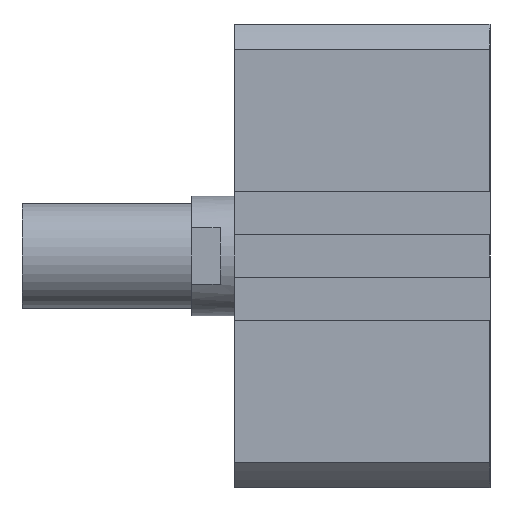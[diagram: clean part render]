
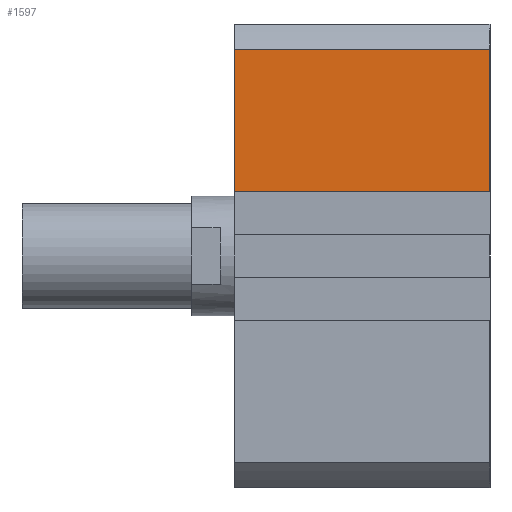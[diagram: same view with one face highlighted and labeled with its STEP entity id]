
A CAD part, left-side view. The second image highlights one B-rep face of the part: STEP entity #1597.
In plain terms, the highlighted planar face has unit normal (-1, 0, 0).
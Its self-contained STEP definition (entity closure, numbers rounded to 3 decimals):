
#133 = LINE ( 'NONE', #2850, #517 ) ;
#222 = CARTESIAN_POINT ( 'NONE',  ( -48.5, -53.5, 43.275 ) ) ;
#238 = CARTESIAN_POINT ( 'NONE',  ( -48.5, -53.5, 0. ) ) ;
#342 = LINE ( 'NONE', #872, #2144 ) ;
#370 = AXIS2_PLACEMENT_3D ( 'NONE', #1582, #1362, #884 ) ;
#409 = VECTOR ( 'NONE', #1386, 1000. ) ;
#512 = EDGE_CURVE ( 'NONE', #904, #2169, #3055, .T. ) ;
#517 = VECTOR ( 'NONE', #2356, 1000. ) ;
#536 = EDGE_LOOP ( 'NONE', ( #554, #564, #2292, #2583 ) ) ;
#554 = ORIENTED_EDGE ( 'NONE', *, *, #2326, .F. ) ;
#559 = EDGE_CURVE ( 'NONE', #904, #1355, #133, .T. ) ;
#564 = ORIENTED_EDGE ( 'NONE', *, *, #559, .F. ) ;
#631 = DIRECTION ( 'NONE',  ( 0., 0., 1. ) ) ;
#872 = CARTESIAN_POINT ( 'NONE',  ( -48.5, 0., 0. ) ) ;
#884 = DIRECTION ( 'NONE',  ( 0., 0., 1. ) ) ;
#904 = VERTEX_POINT ( 'NONE', #2482 ) ;
#1254 = CARTESIAN_POINT ( 'NONE',  ( -48.5, 0., 13.5 ) ) ;
#1332 = LINE ( 'NONE', #222, #409 ) ;
#1351 = CARTESIAN_POINT ( 'NONE',  ( -48.5, 0., 43.275 ) ) ;
#1355 = VERTEX_POINT ( 'NONE', #1254 ) ;
#1362 = DIRECTION ( 'NONE',  ( -1., 0., 0. ) ) ;
#1386 = DIRECTION ( 'NONE',  ( 0., 1., 0. ) ) ;
#1417 = DIRECTION ( 'NONE',  ( 0., 0., 1. ) ) ;
#1523 = VECTOR ( 'NONE', #1417, 1000. ) ;
#1571 = EDGE_CURVE ( 'NONE', #2169, #3033, #1332, .T. ) ;
#1582 = CARTESIAN_POINT ( 'NONE',  ( -48.5, -53.5, 0. ) ) ;
#1597 = ADVANCED_FACE ( 'NONE', ( #2754 ), #3025, .T. ) ;
#2144 = VECTOR ( 'NONE', #631, 1000. ) ;
#2169 = VERTEX_POINT ( 'NONE', #2223 ) ;
#2223 = CARTESIAN_POINT ( 'NONE',  ( -48.5, -53.5, 43.275 ) ) ;
#2292 = ORIENTED_EDGE ( 'NONE', *, *, #512, .T. ) ;
#2326 = EDGE_CURVE ( 'NONE', #1355, #3033, #342, .T. ) ;
#2356 = DIRECTION ( 'NONE',  ( 0., 1., 0. ) ) ;
#2482 = CARTESIAN_POINT ( 'NONE',  ( -48.5, -53.5, 13.5 ) ) ;
#2583 = ORIENTED_EDGE ( 'NONE', *, *, #1571, .T. ) ;
#2754 = FACE_OUTER_BOUND ( 'NONE', #536, .T. ) ;
#2850 = CARTESIAN_POINT ( 'NONE',  ( -48.5, -53.5, 13.5 ) ) ;
#3025 = PLANE ( 'NONE',  #370 ) ;
#3033 = VERTEX_POINT ( 'NONE', #1351 ) ;
#3055 = LINE ( 'NONE', #238, #1523 ) ;
